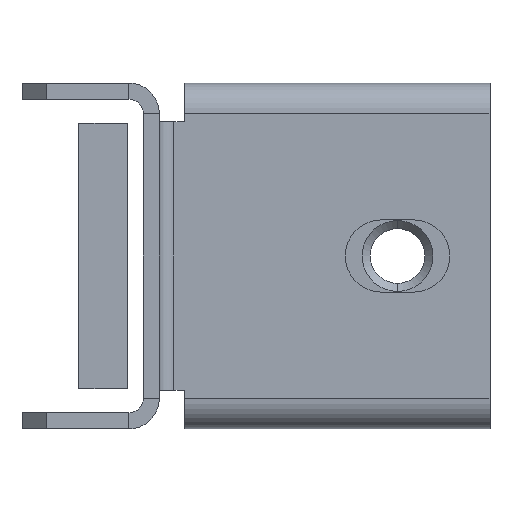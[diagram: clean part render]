
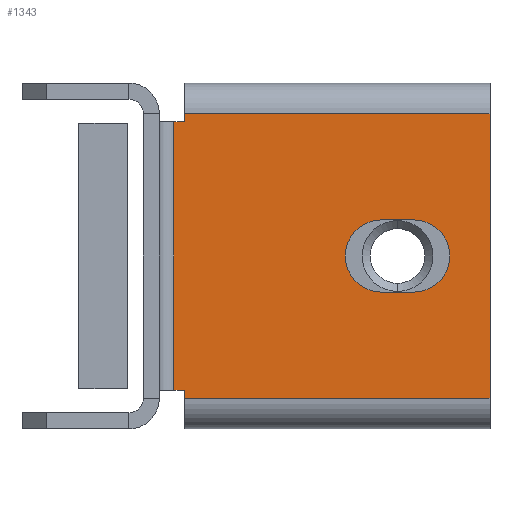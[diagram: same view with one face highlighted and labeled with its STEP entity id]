
A CAD part, front view. The second image highlights one B-rep face of the part: STEP entity #1343.
In plain terms, the highlighted planar face has unit normal (0, -1, 0) as drawn and (0, 0, 1) by its records, which use the part's own axes.
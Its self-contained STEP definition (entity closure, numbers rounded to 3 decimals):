
#27 = CARTESIAN_POINT ( 'NONE',  ( 5.14, -17.7, 2. ) ) ;
#92 = VERTEX_POINT ( 'NONE', #175 ) ;
#95 = CARTESIAN_POINT ( 'NONE',  ( 43.13, 17.7, 2. ) ) ;
#98 = DIRECTION ( 'NONE',  ( 0., 0., -1. ) ) ;
#138 = CARTESIAN_POINT ( 'NONE',  ( 5.14, 16.7, 2. ) ) ;
#147 = DIRECTION ( 'NONE',  ( 0., 0., -1. ) ) ;
#154 = EDGE_CURVE ( 'NONE', #92, #1053, #2050, .T. ) ;
#162 = CIRCLE ( 'NONE', #1471, 4.5 ) ;
#175 = CARTESIAN_POINT ( 'NONE',  ( 29.63, 4.5, 2. ) ) ;
#204 = VERTEX_POINT ( 'NONE', #726 ) ;
#222 = ORIENTED_EDGE ( 'NONE', *, *, #1208, .T. ) ;
#276 = VECTOR ( 'NONE', #2187, 1000. ) ;
#287 = LINE ( 'NONE', #1051, #465 ) ;
#300 = DIRECTION ( 'NONE',  ( -1., 0., 0. ) ) ;
#313 = LINE ( 'NONE', #1473, #1782 ) ;
#326 = DIRECTION ( 'NONE',  ( 0., 0., -1. ) ) ;
#328 = DIRECTION ( 'NONE',  ( 0., 0., -1. ) ) ;
#338 = DIRECTION ( 'NONE',  ( 0., -1., 0. ) ) ;
#352 = DIRECTION ( 'NONE',  ( 1., 0., 0. ) ) ;
#364 = LINE ( 'NONE', #2456, #1854 ) ;
#401 = EDGE_LOOP ( 'NONE', ( #1844, #1872, #1464, #2154, #690, #567, #2057, #1928 ) ) ;
#404 = VECTOR ( 'NONE', #1820, 1000. ) ;
#465 = VECTOR ( 'NONE', #847, 1000. ) ;
#471 = EDGE_LOOP ( 'NONE', ( #1205, #222, #1117, #835, #1808 ) ) ;
#485 = CARTESIAN_POINT ( 'NONE',  ( 5.14, 17.7, 2. ) ) ;
#567 = ORIENTED_EDGE ( 'NONE', *, *, #608, .T. ) ;
#596 = CIRCLE ( 'NONE', #1398, 4.5 ) ;
#598 = DIRECTION ( 'NONE',  ( 1., 0., 0. ) ) ;
#608 = EDGE_CURVE ( 'NONE', #1958, #2345, #1995, .T. ) ;
#615 = CARTESIAN_POINT ( 'NONE',  ( 3.8, -17.7, 2. ) ) ;
#620 = CIRCLE ( 'NONE', #1593, 4.5 ) ;
#653 = VECTOR ( 'NONE', #352, 1000. ) ;
#690 = ORIENTED_EDGE ( 'NONE', *, *, #1280, .F. ) ;
#698 = EDGE_CURVE ( 'NONE', #2240, #92, #620, .T. ) ;
#703 = CARTESIAN_POINT ( 'NONE',  ( 43.13, -17.7, 2. ) ) ;
#714 = PLANE ( 'NONE',  #2352 ) ;
#720 = CARTESIAN_POINT ( 'NONE',  ( 33.63, 0., 2. ) ) ;
#726 = CARTESIAN_POINT ( 'NONE',  ( 33.63, -4.5, 2. ) ) ;
#734 = DIRECTION ( 'NONE',  ( -1., 0., 0. ) ) ;
#741 = CARTESIAN_POINT ( 'NONE',  ( 33.63, 4.5, 2. ) ) ;
#781 = CARTESIAN_POINT ( 'NONE',  ( 38.13, 0., 2. ) ) ;
#835 = ORIENTED_EDGE ( 'NONE', *, *, #698, .T. ) ;
#847 = DIRECTION ( 'NONE',  ( 0., 1., 0. ) ) ;
#893 = LINE ( 'NONE', #615, #1349 ) ;
#944 = EDGE_CURVE ( 'NONE', #1735, #1860, #893, .T. ) ;
#967 = CARTESIAN_POINT ( 'NONE',  ( 3.8, 16.7, 2. ) ) ;
#979 = VECTOR ( 'NONE', #300, 1000. ) ;
#999 = CARTESIAN_POINT ( 'NONE',  ( 3.8, 16.7, 2. ) ) ;
#1038 = CARTESIAN_POINT ( 'NONE',  ( 33.63, 4.5, 2. ) ) ;
#1042 = CARTESIAN_POINT ( 'NONE',  ( 43.13, 17.7, 2. ) ) ;
#1051 = CARTESIAN_POINT ( 'NONE',  ( 5.14, -17.7, 2. ) ) ;
#1053 = VERTEX_POINT ( 'NONE', #1038 ) ;
#1077 = EDGE_CURVE ( 'NONE', #1735, #1203, #287, .T. ) ;
#1099 = DIRECTION ( 'NONE',  ( -1., 0., 0. ) ) ;
#1117 = ORIENTED_EDGE ( 'NONE', *, *, #1191, .T. ) ;
#1129 = CARTESIAN_POINT ( 'NONE',  ( 5.14, 17.7, 2. ) ) ;
#1175 = DIRECTION ( 'NONE',  ( 0., -1., 0. ) ) ;
#1190 = CARTESIAN_POINT ( 'NONE',  ( 3.8, -16.7, 2. ) ) ;
#1191 = EDGE_CURVE ( 'NONE', #204, #2240, #1320, .T. ) ;
#1203 = VERTEX_POINT ( 'NONE', #1826 ) ;
#1205 = ORIENTED_EDGE ( 'NONE', *, *, #2133, .T. ) ;
#1208 = EDGE_CURVE ( 'NONE', #1491, #204, #596, .T. ) ;
#1229 = EDGE_CURVE ( 'NONE', #2345, #1269, #2184, .T. ) ;
#1269 = VERTEX_POINT ( 'NONE', #138 ) ;
#1280 = EDGE_CURVE ( 'NONE', #1958, #1860, #313, .T. ) ;
#1320 = LINE ( 'NONE', #2182, #979 ) ;
#1343 = ADVANCED_FACE ( 'NONE', ( #1859, #1547 ), #714, .F. ) ;
#1349 = VECTOR ( 'NONE', #598, 1000. ) ;
#1396 = LINE ( 'NONE', #999, #2284 ) ;
#1398 = AXIS2_PLACEMENT_3D ( 'NONE', #2009, #98, #2197 ) ;
#1464 = ORIENTED_EDGE ( 'NONE', *, *, #1077, .F. ) ;
#1471 = AXIS2_PLACEMENT_3D ( 'NONE', #720, #147, #734 ) ;
#1473 = CARTESIAN_POINT ( 'NONE',  ( 43.13, 16.7, 2. ) ) ;
#1491 = VERTEX_POINT ( 'NONE', #781 ) ;
#1547 = FACE_BOUND ( 'NONE', #471, .T. ) ;
#1593 = AXIS2_PLACEMENT_3D ( 'NONE', #2387, #328, #1650 ) ;
#1618 = DIRECTION ( 'NONE',  ( 1., 0., 0. ) ) ;
#1650 = DIRECTION ( 'NONE',  ( -1., 0., 0. ) ) ;
#1661 = VECTOR ( 'NONE', #1618, 1000. ) ;
#1674 = CARTESIAN_POINT ( 'NONE',  ( 29.63, -4.5, 2. ) ) ;
#1730 = VERTEX_POINT ( 'NONE', #1190 ) ;
#1735 = VERTEX_POINT ( 'NONE', #27 ) ;
#1770 = EDGE_CURVE ( 'NONE', #2290, #1269, #2025, .T. ) ;
#1782 = VECTOR ( 'NONE', #338, 1000. ) ;
#1808 = ORIENTED_EDGE ( 'NONE', *, *, #154, .T. ) ;
#1820 = DIRECTION ( 'NONE',  ( 0., -1., 0. ) ) ;
#1826 = CARTESIAN_POINT ( 'NONE',  ( 5.14, -16.7, 2. ) ) ;
#1844 = ORIENTED_EDGE ( 'NONE', *, *, #2411, .T. ) ;
#1854 = VECTOR ( 'NONE', #2260, 1000. ) ;
#1859 = FACE_OUTER_BOUND ( 'NONE', #401, .T. ) ;
#1860 = VERTEX_POINT ( 'NONE', #703 ) ;
#1872 = ORIENTED_EDGE ( 'NONE', *, *, #2278, .T. ) ;
#1928 = ORIENTED_EDGE ( 'NONE', *, *, #1770, .F. ) ;
#1958 = VERTEX_POINT ( 'NONE', #95 ) ;
#1995 = LINE ( 'NONE', #1042, #276 ) ;
#2009 = CARTESIAN_POINT ( 'NONE',  ( 33.63, 0., 2. ) ) ;
#2020 = CARTESIAN_POINT ( 'NONE',  ( 0., 16.7, 2. ) ) ;
#2025 = LINE ( 'NONE', #2138, #1661 ) ;
#2050 = LINE ( 'NONE', #741, #653 ) ;
#2057 = ORIENTED_EDGE ( 'NONE', *, *, #1229, .T. ) ;
#2133 = EDGE_CURVE ( 'NONE', #1053, #1491, #162, .T. ) ;
#2138 = CARTESIAN_POINT ( 'NONE',  ( 0., 16.7, 2. ) ) ;
#2154 = ORIENTED_EDGE ( 'NONE', *, *, #944, .T. ) ;
#2182 = CARTESIAN_POINT ( 'NONE',  ( 33.63, -4.5, 2. ) ) ;
#2184 = LINE ( 'NONE', #485, #404 ) ;
#2187 = DIRECTION ( 'NONE',  ( -1., 0., 0. ) ) ;
#2197 = DIRECTION ( 'NONE',  ( -1., 0., 0. ) ) ;
#2240 = VERTEX_POINT ( 'NONE', #1674 ) ;
#2260 = DIRECTION ( 'NONE',  ( 1., 0., 0. ) ) ;
#2278 = EDGE_CURVE ( 'NONE', #1730, #1203, #364, .T. ) ;
#2284 = VECTOR ( 'NONE', #1175, 1000. ) ;
#2290 = VERTEX_POINT ( 'NONE', #967 ) ;
#2345 = VERTEX_POINT ( 'NONE', #1129 ) ;
#2352 = AXIS2_PLACEMENT_3D ( 'NONE', #2020, #326, #1099 ) ;
#2387 = CARTESIAN_POINT ( 'NONE',  ( 29.63, 0., 2. ) ) ;
#2411 = EDGE_CURVE ( 'NONE', #2290, #1730, #1396, .T. ) ;
#2456 = CARTESIAN_POINT ( 'NONE',  ( 0., -16.7, 2. ) ) ;
